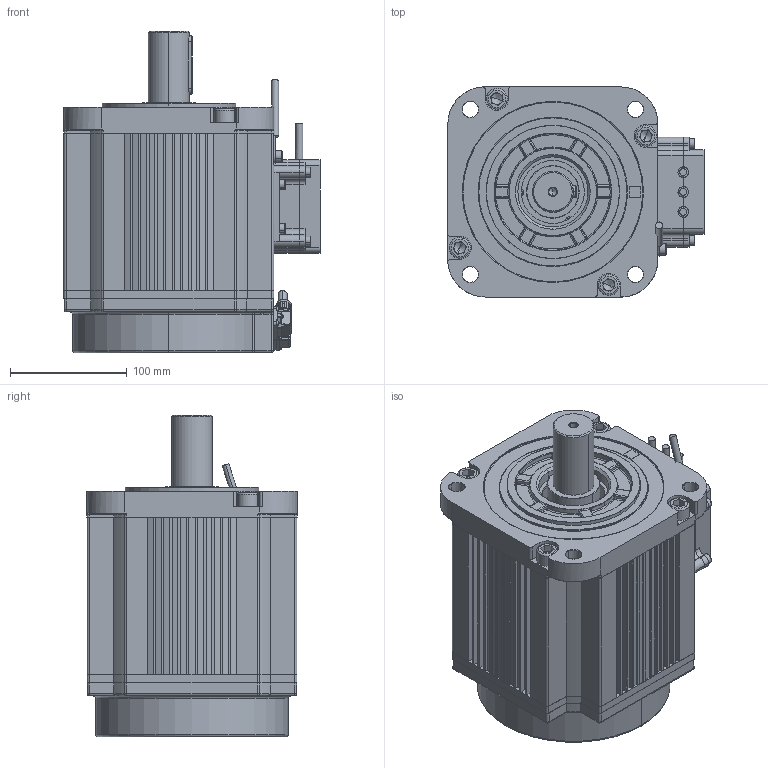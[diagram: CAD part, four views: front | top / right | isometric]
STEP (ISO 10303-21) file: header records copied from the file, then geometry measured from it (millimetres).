
FILE_DESCRIPTION (( 'STEP AP203' ), '1' );
FILE_NAME ('軞蚾.STEP', '2025-01-06T11:41:42', ( 'wuyd' ), ( '' ), 'SwSTEP 2.0', 'SolidWorks 2023', '' );
FILE_SCHEMA (( 'CONFIG_CONTROL_DESIGN' ));
Products named in the file (1): 总装
Bounding box: 219.65 x 180 x 275.5 mm (x, y, z)
Volume: 1616701.5 mm3; surface area: 586217.9 mm2
Topology: 61 solids, 62 shells, 5581 faces, 14117 edges, 8727 vertices
Faces by surface type: plane 2664, cylinder 1572, torus 492, bspline 379, cone 366, sphere 108
Entity records: 185790 total; most frequent: CARTESIAN_POINT 53999, ORIENTED_EDGE 27762, DIRECTION 26977, EDGE_CURVE 13881, AXIS2_PLACEMENT_3D 9527, VERTEX_POINT 8692, LINE 7923, VECTOR 7923
